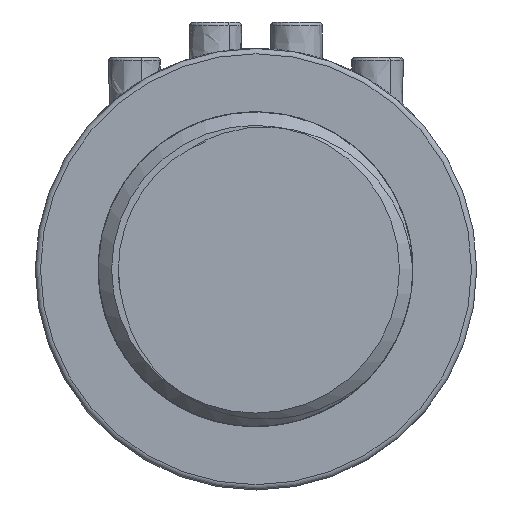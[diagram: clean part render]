
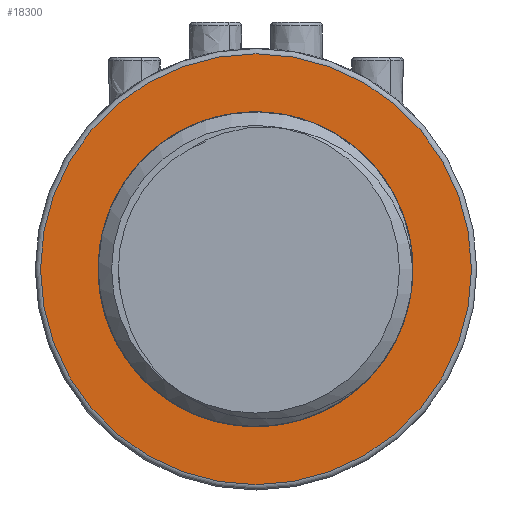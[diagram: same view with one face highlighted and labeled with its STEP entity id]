
A CAD part, front view. The second image highlights one B-rep face of the part: STEP entity #18300.
In plain terms, the highlighted planar face has unit normal (0, -1, 0).
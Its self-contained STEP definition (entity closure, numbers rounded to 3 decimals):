
#996=FACE_BOUND('',#4486,.T.);
#1083=PLANE('',#19052);
#1147=CIRCLE('',#18425,8.911);
#1567=CIRCLE('',#19053,12.2);
#1568=CIRCLE('',#19054,12.2);
#3125=FACE_OUTER_BOUND('',#4485,.T.);
#4485=EDGE_LOOP('',(#16298,#16299));
#4486=EDGE_LOOP('',(#16300));
#6519=VERTEX_POINT('',#38712);
#8438=VERTEX_POINT('',#183285);
#8439=VERTEX_POINT('',#183286);
#8597=EDGE_CURVE('',#6519,#6519,#1147,.T.);
#11078=EDGE_CURVE('',#8438,#8439,#1567,.T.);
#11079=EDGE_CURVE('',#8439,#8438,#1568,.T.);
#16298=ORIENTED_EDGE('',*,*,#11078,.F.);
#16299=ORIENTED_EDGE('',*,*,#11079,.F.);
#16300=ORIENTED_EDGE('',*,*,#8597,.T.);
#18300=ADVANCED_FACE('',(#3125,#996),#1083,.T.);
#18425=AXIS2_PLACEMENT_3D('',#38713,#19160,#19161);
#19052=AXIS2_PLACEMENT_3D('',#183284,#20687,#20688);
#19053=AXIS2_PLACEMENT_3D('',#183287,#20689,#20690);
#19054=AXIS2_PLACEMENT_3D('',#183288,#20691,#20692);
#19160=DIRECTION('center_axis',(0.,1.,0.));
#19161=DIRECTION('ref_axis',(1.,0.,0.));
#20687=DIRECTION('center_axis',(0.,-1.,0.));
#20688=DIRECTION('ref_axis',(0.,0.,-1.));
#20689=DIRECTION('center_axis',(0.,1.,0.));
#20690=DIRECTION('ref_axis',(1.,0.,0.));
#20691=DIRECTION('center_axis',(0.,1.,0.));
#20692=DIRECTION('ref_axis',(1.,0.,0.));
#38712=CARTESIAN_POINT('',(974.943,407.698,0.));
#38713=CARTESIAN_POINT('Origin',(983.854,407.698,0.));
#183284=CARTESIAN_POINT('Origin',(971.68,407.698,0.));
#183285=CARTESIAN_POINT('',(971.68,407.698,0.));
#183286=CARTESIAN_POINT('',(983.88,407.698,-12.2));
#183287=CARTESIAN_POINT('Origin',(983.88,407.698,0.));
#183288=CARTESIAN_POINT('Origin',(983.88,407.698,0.));
